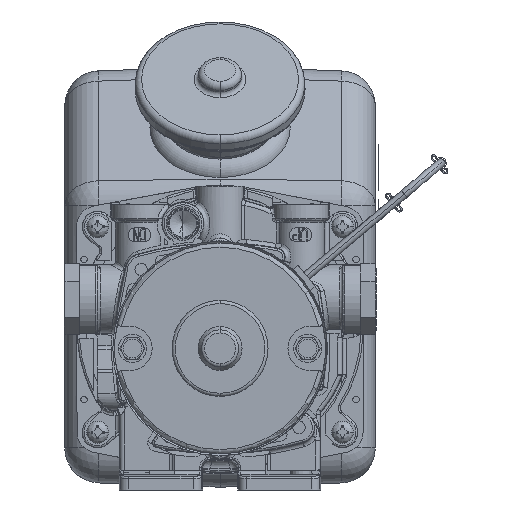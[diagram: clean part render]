
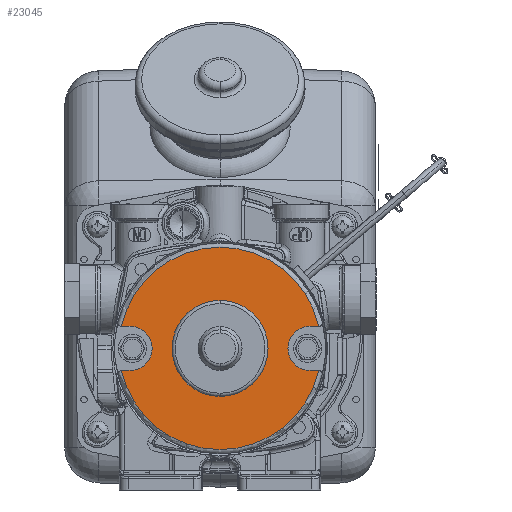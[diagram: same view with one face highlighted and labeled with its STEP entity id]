
A CAD part, front view. The second image highlights one B-rep face of the part: STEP entity #23045.
In plain terms, the highlighted planar face has unit normal (0, -1, 0).
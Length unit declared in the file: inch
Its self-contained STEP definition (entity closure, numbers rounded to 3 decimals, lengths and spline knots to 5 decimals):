
#20995=CARTESIAN_POINT('',(0.,-4.6,-0.27));
#20996=DIRECTION('',(0.,-1.,0.));
#20997=DIRECTION('',(-0.976,0.,-0.218));
#20998=AXIS2_PLACEMENT_3D('',#20995,#20996,#20997);
#21010=CARTESIAN_POINT('',(-1.4082,-4.6,0.04498));
#21040=CARTESIAN_POINT('',(1.4082,-4.6,0.04498));
#21042=CARTESIAN_POINT('',(0.,-4.6,-0.27));
#21043=DIRECTION('',(0.,-1.,0.));
#21044=DIRECTION('',(0.976,0.,0.218));
#21045=AXIS2_PLACEMENT_3D('',#21042,#21043,#21044);
#21047=DIRECTION('',(1.,0.,0.));
#21048=VECTOR('',#21047,0.12463);
#21049=CARTESIAN_POINT('',(-1.40829,-4.6,
-0.58498));
#21050=LINE('',#21049,#21048);
#21051=CARTESIAN_POINT('',(-1.28367,-4.6,-0.27));
#21052=DIRECTION('',(0.,-1.,0.));
#21053=DIRECTION('',(0.,0.,-1.));
#21054=AXIS2_PLACEMENT_3D('',#21051,#21052,#21053);
#21056=DIRECTION('',(-1.,0.,0.));
#21057=VECTOR('',#21056,0.12454);
#21058=CARTESIAN_POINT('',(-1.28367,-4.6,0.045));
#21059=LINE('',#21058,#21057);
#21060=DIRECTION('',(-1.,0.,0.));
#21061=VECTOR('',#21060,0.12454);
#21062=CARTESIAN_POINT('',(1.4082,-4.6,0.04498));
#21063=LINE('',#21062,#21061);
#21064=CARTESIAN_POINT('',(1.28367,-4.6,-0.27));
#21065=DIRECTION('',(0.,-1.,0.));
#21066=DIRECTION('',(0.,0.,1.));
#21067=AXIS2_PLACEMENT_3D('',#21064,#21065,#21066);
#21069=DIRECTION('',(1.,0.,0.));
#21070=VECTOR('',#21069,0.12463);
#21071=CARTESIAN_POINT('',(1.28367,-4.6,-0.585));
#21072=LINE('',#21071,#21070);
#21073=CARTESIAN_POINT('',(0.,-4.6,-0.27));
#21074=DIRECTION('',(0.,1.,0.));
#21075=DIRECTION('',(0.,0.,-1.));
#21076=AXIS2_PLACEMENT_3D('',#21073,#21074,#21075);
#21187=CARTESIAN_POINT('',(0.,-4.6,-0.27));
#21188=DIRECTION('',(0.,-1.,0.));
#21189=DIRECTION('',(0.,0.,-1.));
#21190=AXIS2_PLACEMENT_3D('',#21187,#21188,#21189);
#22468=CARTESIAN_POINT('',(0.,-4.6,-0.955));
#22469=CARTESIAN_POINT('',(0.,-4.6,0.415));
#22470=VERTEX_POINT('',#22468);
#22471=VERTEX_POINT('',#22469);
#22505=CARTESIAN_POINT('',(-1.40829,-4.6,
-0.58498));
#22507=VERTEX_POINT('',#22505);
#22511=CARTESIAN_POINT('',(-1.28367,-4.6,-0.585));
#22512=VERTEX_POINT('',#22511);
#22515=CARTESIAN_POINT('',(1.4082,-4.6,-0.585));
#22516=VERTEX_POINT('',#22515);
#22521=VERTEX_POINT('',#21010);
#22522=VERTEX_POINT('',#21040);
#22532=CARTESIAN_POINT('',(-1.28367,-4.6,0.045));
#22533=VERTEX_POINT('',#22532);
#22534=CARTESIAN_POINT('',(1.28367,-4.6,0.045));
#22535=VERTEX_POINT('',#22534);
#22536=CARTESIAN_POINT('',(1.28367,-4.6,-0.585));
#22537=VERTEX_POINT('',#22536);
#23018=CARTESIAN_POINT('',(0.,-4.6,-0.27));
#23019=DIRECTION('',(0.,1.,0.));
#23020=DIRECTION('',(0.,0.,1.));
#23021=AXIS2_PLACEMENT_3D('',#23018,#23019,#23020);
#23022=PLANE('',#23021);
#23024=ORIENTED_EDGE('',*,*,#23023,.T.);
#23026=ORIENTED_EDGE('',*,*,#23025,.T.);
#23028=ORIENTED_EDGE('',*,*,#23027,.T.);
#23029=ORIENTED_EDGE('',*,*,#23013,.F.);
#23031=ORIENTED_EDGE('',*,*,#23030,.T.);
#23033=ORIENTED_EDGE('',*,*,#23032,.T.);
#23035=ORIENTED_EDGE('',*,*,#23034,.T.);
#23036=ORIENTED_EDGE('',*,*,#22991,.F.);
#23037=EDGE_LOOP('',(#23024,#23026,#23028,#23029,#23031,#23033,#23035,#23036));
#23038=FACE_OUTER_BOUND('',#23037,.F.);
#23040=ORIENTED_EDGE('',*,*,#23039,.T.);
#23042=ORIENTED_EDGE('',*,*,#23041,.F.);
#23043=EDGE_LOOP('',(#23040,#23042));
#23044=FACE_BOUND('',#23043,.F.);
#23045=ADVANCED_FACE('',(#23038,#23044),#23022,.F.);
#20999=CIRCLE('',#20998,1.443);
#21046=CIRCLE('',#21045,1.443);
#21055=CIRCLE('',#21054,0.315);
#21068=CIRCLE('',#21067,0.315);
#21077=CIRCLE('',#21076,0.685);
#21191=CIRCLE('',#21190,0.685);
#22991=EDGE_CURVE('',#22507,#22516,#20999,.T.);
#23013=EDGE_CURVE('',#22522,#22521,#21046,.T.);
#23023=EDGE_CURVE('',#22507,#22512,#21050,.T.);
#23025=EDGE_CURVE('',#22512,#22533,#21055,.T.);
#23027=EDGE_CURVE('',#22533,#22521,#21059,.T.);
#23030=EDGE_CURVE('',#22522,#22535,#21063,.T.);
#23032=EDGE_CURVE('',#22535,#22537,#21068,.T.);
#23034=EDGE_CURVE('',#22537,#22516,#21072,.T.);
#23039=EDGE_CURVE('',#22470,#22471,#21191,.T.);
#23041=EDGE_CURVE('',#22470,#22471,#21077,.T.);
